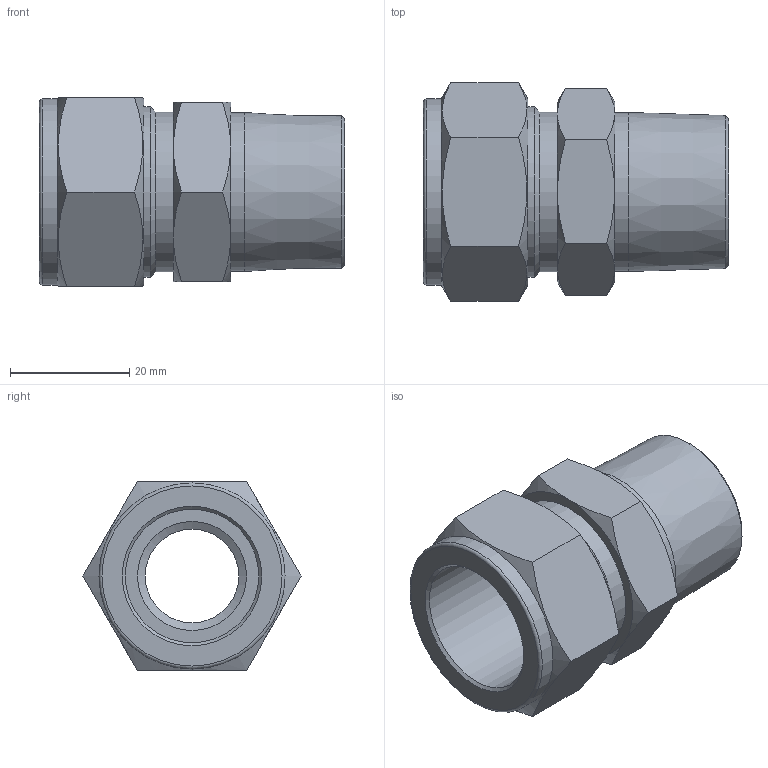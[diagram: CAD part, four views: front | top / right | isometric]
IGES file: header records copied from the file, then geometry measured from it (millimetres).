
Global section: file name: No Iges File Name specified; native system: Autodesk Inventor 2012; preprocessor: AutoDesk Inventor Iges Exporter R2012; author: 硅己绕,,1; organization: 1; date: 20150603.093353; units: millimetre
Bounding box: 51.17 x 36.6 x 31.7 mm (x, y, z)
Volume: 20050.9 mm3; surface area: 9423.3 mm2
Topology: 1 solids, 1 shells, 46 faces, 96 edges, 56 vertices
Faces by surface type: plane 18, cone 17, revolution 6, cylinder 4, torus 1
Full cylindrical faces by diameter (mm): 26.67 x1, 26.8 x1, 28.58 x1, 31.2 x1
